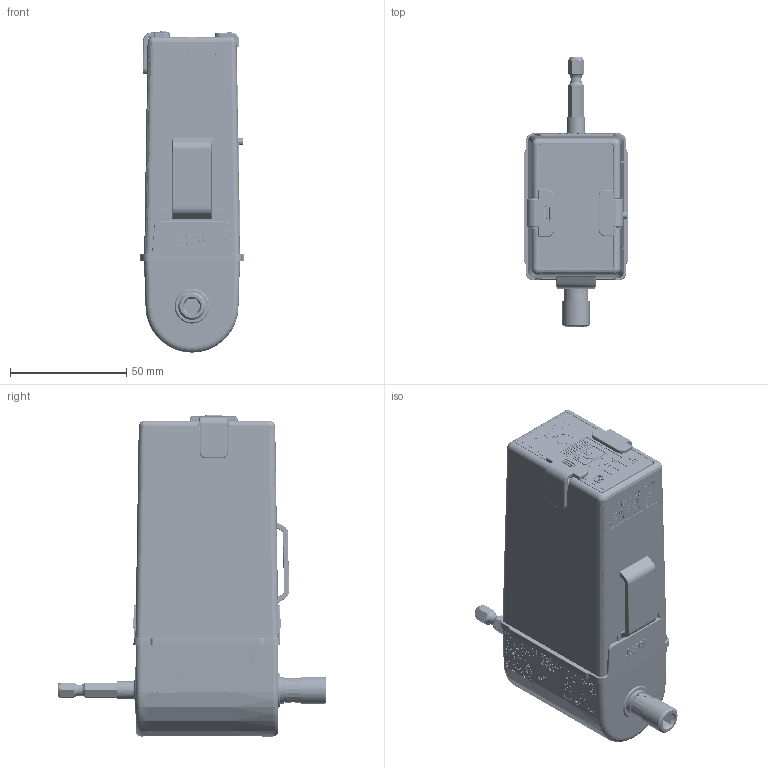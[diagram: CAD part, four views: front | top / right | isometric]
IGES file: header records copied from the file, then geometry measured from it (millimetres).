
Start section:  PTC IGES file: 6152210510_dim.igs
Global section: file name: 6152210510_dim.igs; native system: Creo Parametric by PTC Inc.; preprocessor: 2023254; author: S00000450; organization: Unknown; date: 20240301.152607; units: millimetre
Bounding box: 45 x 115.8 x 138.33 mm (x, y, z)
Surface area: 94698.7 mm2 (no closed solid volume)
Topology: 0 solids, 0 shells, 9050 faces, 49537 edges, 49475 vertices
Faces by surface type: bspline 4422, extrusion 3257, revolution 1371
